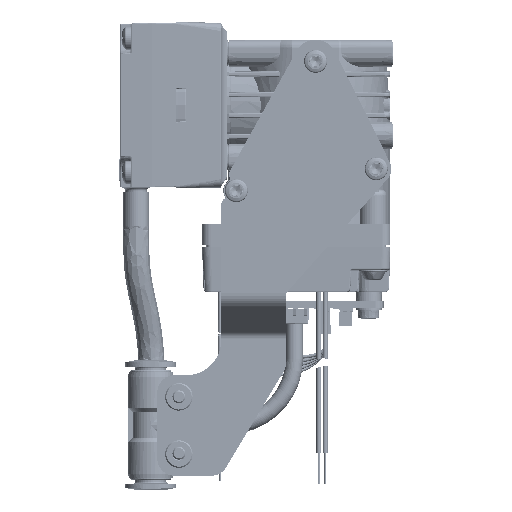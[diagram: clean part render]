
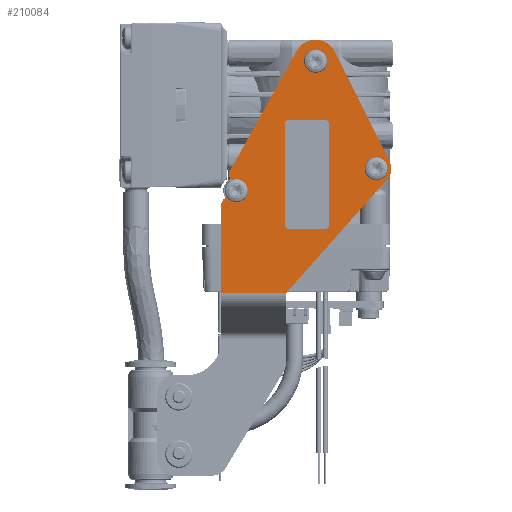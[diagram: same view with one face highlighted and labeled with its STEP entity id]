
A CAD part, left-side view. The second image highlights one B-rep face of the part: STEP entity #210084.
In plain terms, the highlighted planar face has unit normal (-1, 0, 0).
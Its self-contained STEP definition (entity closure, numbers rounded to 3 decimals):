
#44275=DIRECTION('',(0.,1.,0.));
#44276=VECTOR('',#44275,15.);
#44277=CARTESIAN_POINT('',(-18.7,6.8,-43.4));
#44278=LINE('',#44277,#44276);
#44492=CARTESIAN_POINT('',(-18.7,18.3,-19.75));
#44493=DIRECTION('',(1.,0.,0.));
#44494=DIRECTION('',(0.,0.,1.));
#44495=AXIS2_PLACEMENT_3D('',#44492,#44493,#44494);
#44497=CARTESIAN_POINT('',(-18.7,18.3,-19.75));
#44498=DIRECTION('',(1.,0.,0.));
#44499=DIRECTION('',(0.,0.421,0.907));
#44500=AXIS2_PLACEMENT_3D('',#44497,#44498,#44499);
#44502=CARTESIAN_POINT('',(-18.7,17.969,-16.065));
#44503=DIRECTION('',(-1.,0.,0.));
#44504=DIRECTION('',(0.,0.874,0.486));
#44505=AXIS2_PLACEMENT_3D('',#44502,#44503,#44504);
#44507=DIRECTION('',(0.,-0.486,0.874));
#44508=VECTOR('',#44507,31.599);
#44509=CARTESIAN_POINT('',(-18.7,19.717,-15.094));
#44510=LINE('',#44509,#44508);
#44511=CARTESIAN_POINT('',(-18.7,0.,10.1));
#44512=DIRECTION('',(1.,0.,0.));
#44513=DIRECTION('',(0.,0.874,0.486));
#44514=AXIS2_PLACEMENT_3D('',#44511,#44512,#44513);
#44516=DIRECTION('',(0.,-0.445,-0.896));
#44517=VECTOR('',#44516,28.439);
#44518=CARTESIAN_POINT('',(-18.7,-4.478,12.325));
#44519=LINE('',#44518,#44517);
#44520=CARTESIAN_POINT('',(-18.7,-14.,-14.7));
#44521=DIRECTION('',(1.,0.,0.));
#44522=DIRECTION('',(0.,-0.896,0.445));
#44523=AXIS2_PLACEMENT_3D('',#44520,#44521,#44522);
#44525=DIRECTION('',(0.,0.664,-0.748));
#44526=VECTOR('',#44525,35.272);
#44527=CARTESIAN_POINT('',(-18.7,-16.617,-17.024));
#44528=LINE('',#44527,#44526);
#44529=DIRECTION('',(0.,0.,-1.));
#44530=VECTOR('',#44529,20.268);
#44531=CARTESIAN_POINT('',(-18.7,21.8,-23.132));
#44532=LINE('',#44531,#44530);
#44533=CARTESIAN_POINT('',(-18.7,19.8,-23.132));
#44534=DIRECTION('',(-1.,0.,0.));
#44535=DIRECTION('',(0.,0.241,0.971));
#44536=AXIS2_PLACEMENT_3D('',#44533,#44534,#44535);
#44538=CARTESIAN_POINT('',(-18.7,18.3,-19.75));
#44539=DIRECTION('',(1.,0.,0.));
#44540=DIRECTION('',(0.,0.,-1.));
#44541=AXIS2_PLACEMENT_3D('',#44538,#44539,#44540);
#44543=CARTESIAN_POINT('',(-18.7,0.,10.1));
#44544=DIRECTION('',(1.,0.,0.));
#44545=DIRECTION('',(0.,0.,1.));
#44546=AXIS2_PLACEMENT_3D('',#44543,#44544,#44545);
#44548=CARTESIAN_POINT('',(-18.7,0.,10.1));
#44549=DIRECTION('',(1.,0.,0.));
#44550=DIRECTION('',(0.,0.,-1.));
#44551=AXIS2_PLACEMENT_3D('',#44548,#44549,#44550);
#44553=CARTESIAN_POINT('',(-18.7,-14.,-14.7));
#44554=DIRECTION('',(1.,0.,0.));
#44555=DIRECTION('',(0.,0.,1.));
#44556=AXIS2_PLACEMENT_3D('',#44553,#44554,#44555);
#44558=CARTESIAN_POINT('',(-18.7,-14.,-14.7));
#44559=DIRECTION('',(1.,0.,0.));
#44560=DIRECTION('',(0.,0.,-1.));
#44561=AXIS2_PLACEMENT_3D('',#44558,#44559,#44560);
#44563=DIRECTION('',(0.,0.,1.));
#44564=VECTOR('',#44563,24.);
#44565=CARTESIAN_POINT('',(-18.7,-3.,-28.));
#44566=LINE('',#44565,#44564);
#44567=CARTESIAN_POINT('',(-18.7,-2.5,-4.));
#44568=DIRECTION('',(-1.,0.,0.));
#44569=DIRECTION('',(0.,-1.,0.));
#44570=AXIS2_PLACEMENT_3D('',#44567,#44568,#44569);
#44572=DIRECTION('',(0.,1.,0.));
#44573=VECTOR('',#44572,9.);
#44574=CARTESIAN_POINT('',(-18.7,-2.5,-3.5));
#44575=LINE('',#44574,#44573);
#44576=CARTESIAN_POINT('',(-18.7,6.5,-4.));
#44577=DIRECTION('',(1.,0.,0.));
#44578=DIRECTION('',(0.,1.,0.));
#44579=AXIS2_PLACEMENT_3D('',#44576,#44577,#44578);
#44581=DIRECTION('',(0.,0.,1.));
#44582=VECTOR('',#44581,24.);
#44583=CARTESIAN_POINT('',(-18.7,7.,-28.));
#44584=LINE('',#44583,#44582);
#44585=CARTESIAN_POINT('',(-18.7,6.5,-28.));
#44586=DIRECTION('',(-1.,0.,0.));
#44587=DIRECTION('',(0.,1.,0.));
#44588=AXIS2_PLACEMENT_3D('',#44585,#44586,#44587);
#44590=DIRECTION('',(0.,1.,0.));
#44591=VECTOR('',#44590,9.);
#44592=CARTESIAN_POINT('',(-18.7,-2.5,-28.5));
#44593=LINE('',#44592,#44591);
#44594=CARTESIAN_POINT('',(-18.7,-2.5,-28.));
#44595=DIRECTION('',(1.,0.,0.));
#44596=DIRECTION('',(0.,-1.,0.));
#44597=AXIS2_PLACEMENT_3D('',#44594,#44595,#44596);
#147315=CARTESIAN_POINT('',(-18.7,-17.134,-13.142));
#147316=CARTESIAN_POINT('',(-18.7,-16.617,-17.024));
#147317=VERTEX_POINT('',#147315);
#147318=VERTEX_POINT('',#147316);
#147319=CARTESIAN_POINT('',(-18.7,6.8,-43.4));
#147320=VERTEX_POINT('',#147319);
#147321=CARTESIAN_POINT('',(-18.7,4.371,12.528));
#147322=CARTESIAN_POINT('',(-18.7,-4.478,12.325));
#147323=VERTEX_POINT('',#147321);
#147324=VERTEX_POINT('',#147322);
#147333=CARTESIAN_POINT('',(-18.7,21.8,-43.4));
#147334=VERTEX_POINT('',#147333);
#147394=CARTESIAN_POINT('',(-18.7,19.717,-15.094));
#147396=VERTEX_POINT('',#147394);
#147397=CARTESIAN_POINT('',(-18.7,21.8,-23.132));
#147399=VERTEX_POINT('',#147397);
#148082=CARTESIAN_POINT('',(-18.7,18.3,-17.3));
#148083=CARTESIAN_POINT('',(-18.7,18.3,-22.2));
#148084=VERTEX_POINT('',#148082);
#148085=VERTEX_POINT('',#148083);
#148086=CARTESIAN_POINT('',(-18.7,20.282,-21.191));
#148087=VERTEX_POINT('',#148086);
#148088=CARTESIAN_POINT('',(-18.7,19.333,-17.528));
#148089=VERTEX_POINT('',#148088);
#148270=CARTESIAN_POINT('',(-18.7,0.,12.55));
#148271=CARTESIAN_POINT('',(-18.7,0.,7.65));
#148272=VERTEX_POINT('',#148270);
#148273=VERTEX_POINT('',#148271);
#148440=CARTESIAN_POINT('',(-18.7,-14.,-12.25));
#148441=CARTESIAN_POINT('',(-18.7,-14.,-17.15));
#148442=VERTEX_POINT('',#148440);
#148443=VERTEX_POINT('',#148441);
#148981=CARTESIAN_POINT('',(-18.7,-3.,-28.));
#148982=CARTESIAN_POINT('',(-18.7,-3.,-4.));
#148983=VERTEX_POINT('',#148981);
#148984=VERTEX_POINT('',#148982);
#148985=CARTESIAN_POINT('',(-18.7,7.,-28.));
#148986=CARTESIAN_POINT('',(-18.7,7.,-4.));
#148987=VERTEX_POINT('',#148985);
#148988=VERTEX_POINT('',#148986);
#148989=CARTESIAN_POINT('',(-18.7,-2.5,-28.5));
#148990=CARTESIAN_POINT('',(-18.7,6.5,-28.5));
#148991=VERTEX_POINT('',#148989);
#148992=VERTEX_POINT('',#148990);
#148993=CARTESIAN_POINT('',(-18.7,-2.5,-3.5));
#148994=CARTESIAN_POINT('',(-18.7,6.5,-3.5));
#148995=VERTEX_POINT('',#148993);
#148996=VERTEX_POINT('',#148994);
#210030=CARTESIAN_POINT('',(-18.7,-17.5,-43.4));
#210031=DIRECTION('',(-1.,0.,0.));
#210032=DIRECTION('',(0.,0.,1.));
#210033=AXIS2_PLACEMENT_3D('',#210030,#210031,#210032);
#210034=PLANE('',#210033);
#210036=ORIENTED_EDGE('',*,*,#210035,.F.);
#210038=ORIENTED_EDGE('',*,*,#210037,.F.);
#210039=ORIENTED_EDGE('',*,*,#209914,.F.);
#210040=ORIENTED_EDGE('',*,*,#209935,.T.);
#210041=ORIENTED_EDGE('',*,*,#209955,.T.);
#210042=ORIENTED_EDGE('',*,*,#209976,.T.);
#210043=ORIENTED_EDGE('',*,*,#209997,.T.);
#210044=ORIENTED_EDGE('',*,*,#210017,.T.);
#210045=ORIENTED_EDGE('',*,*,#209641,.T.);
#210047=ORIENTED_EDGE('',*,*,#210046,.F.);
#210049=ORIENTED_EDGE('',*,*,#210048,.F.);
#210051=ORIENTED_EDGE('',*,*,#210050,.F.);
#210052=EDGE_LOOP('',(#210036,#210038,#210039,#210040,#210041,#210042,#210043,
#210044,#210045,#210047,#210049,#210051));
#210053=FACE_OUTER_BOUND('',#210052,.F.);
#210055=ORIENTED_EDGE('',*,*,#210054,.F.);
#210057=ORIENTED_EDGE('',*,*,#210056,.F.);
#210058=EDGE_LOOP('',(#210055,#210057));
#210059=FACE_BOUND('',#210058,.F.);
#210061=ORIENTED_EDGE('',*,*,#210060,.F.);
#210063=ORIENTED_EDGE('',*,*,#210062,.F.);
#210064=EDGE_LOOP('',(#210061,#210063));
#210065=FACE_BOUND('',#210064,.F.);
#210067=ORIENTED_EDGE('',*,*,#210066,.T.);
#210069=ORIENTED_EDGE('',*,*,#210068,.T.);
#210071=ORIENTED_EDGE('',*,*,#210070,.T.);
#210073=ORIENTED_EDGE('',*,*,#210072,.F.);
#210075=ORIENTED_EDGE('',*,*,#210074,.F.);
#210077=ORIENTED_EDGE('',*,*,#210076,.T.);
#210079=ORIENTED_EDGE('',*,*,#210078,.F.);
#210081=ORIENTED_EDGE('',*,*,#210080,.F.);
#210082=EDGE_LOOP('',(#210067,#210069,#210071,#210073,#210075,#210077,#210079,
#210081));
#210083=FACE_BOUND('',#210082,.F.);
#44496=CIRCLE('',#44495,2.45);
#44501=CIRCLE('',#44500,2.45);
#44506=CIRCLE('',#44505,2.);
#44515=CIRCLE('',#44514,5.);
#44524=CIRCLE('',#44523,3.5);
#44537=CIRCLE('',#44536,2.);
#44542=CIRCLE('',#44541,2.45);
#44547=CIRCLE('',#44546,2.45);
#44552=CIRCLE('',#44551,2.45);
#44557=CIRCLE('',#44556,2.45);
#44562=CIRCLE('',#44561,2.45);
#44571=CIRCLE('',#44570,0.5);
#44580=CIRCLE('',#44579,0.5);
#44589=CIRCLE('',#44588,0.5);
#44598=CIRCLE('',#44597,0.5);
#209641=EDGE_CURVE('',#147320,#147334,#44278,.T.);
#209914=EDGE_CURVE('',#147396,#148089,#44506,.T.);
#209935=EDGE_CURVE('',#147396,#147323,#44510,.T.);
#209955=EDGE_CURVE('',#147323,#147324,#44515,.T.);
#209976=EDGE_CURVE('',#147324,#147317,#44519,.T.);
#209997=EDGE_CURVE('',#147317,#147318,#44524,.T.);
#210017=EDGE_CURVE('',#147318,#147320,#44528,.T.);
#210035=EDGE_CURVE('',#148084,#148085,#44496,.T.);
#210037=EDGE_CURVE('',#148089,#148084,#44501,.T.);
#210046=EDGE_CURVE('',#147399,#147334,#44532,.T.);
#210048=EDGE_CURVE('',#148087,#147399,#44537,.T.);
#210050=EDGE_CURVE('',#148085,#148087,#44542,.T.);
#210054=EDGE_CURVE('',#148272,#148273,#44547,.T.);
#210056=EDGE_CURVE('',#148273,#148272,#44552,.T.);
#210060=EDGE_CURVE('',#148442,#148443,#44557,.T.);
#210062=EDGE_CURVE('',#148443,#148442,#44562,.T.);
#210066=EDGE_CURVE('',#148983,#148984,#44566,.T.);
#210068=EDGE_CURVE('',#148984,#148995,#44571,.T.);
#210070=EDGE_CURVE('',#148995,#148996,#44575,.T.);
#210072=EDGE_CURVE('',#148988,#148996,#44580,.T.);
#210074=EDGE_CURVE('',#148987,#148988,#44584,.T.);
#210076=EDGE_CURVE('',#148987,#148992,#44589,.T.);
#210078=EDGE_CURVE('',#148991,#148992,#44593,.T.);
#210080=EDGE_CURVE('',#148983,#148991,#44598,.T.);
#210084=ADVANCED_FACE('',(#210053,#210059,#210065,#210083),#210034,.T.);
